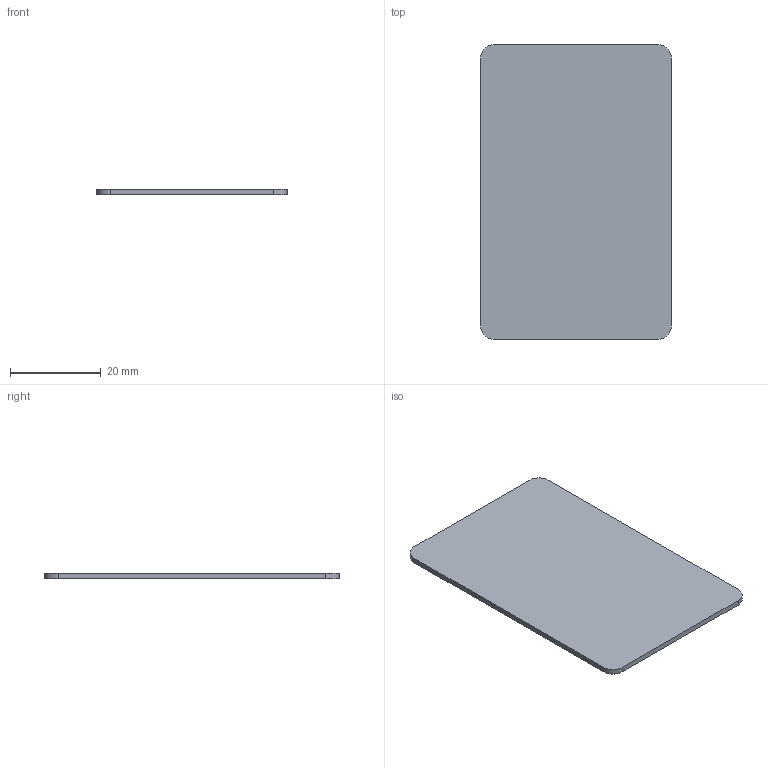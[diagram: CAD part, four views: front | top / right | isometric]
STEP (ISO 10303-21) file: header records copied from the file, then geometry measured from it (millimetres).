
FILE_DESCRIPTION(('Open CASCADE Model'),'2;1');
FILE_NAME('Open CASCADE Shape Model','2026-09-10T00:40:50',('Author'),( 'Open CASCADE'),'Open CASCADE STEP processor 7.8','Open CASCADE 7.8' ,'Unknown');
FILE_SCHEMA(('AUTOMOTIVE_DESIGN { 1 0 10303 214 1 1 1 1 }'));
Length unit declared in the file: millimetre
Products named in the file (1): Open CASCADE STEP translator 7.8 16
Bounding box: 42 x 65 x 1.2 mm (x, y, z)
Volume: 3266.7 mm3; surface area: 5695.2 mm2
Topology: 1 solids, 1 shells, 10 faces, 24 edges, 16 vertices
Faces by surface type: plane 6, cylinder 4
Entity records: 616 total; most frequent: CARTESIAN_POINT 101, DIRECTION 100, LINE 54, VECTOR 54, ORIENTED_EDGE 48, PCURVE 48, DEFINITIONAL_REPRESENTATION 48, EDGE_CURVE 24
